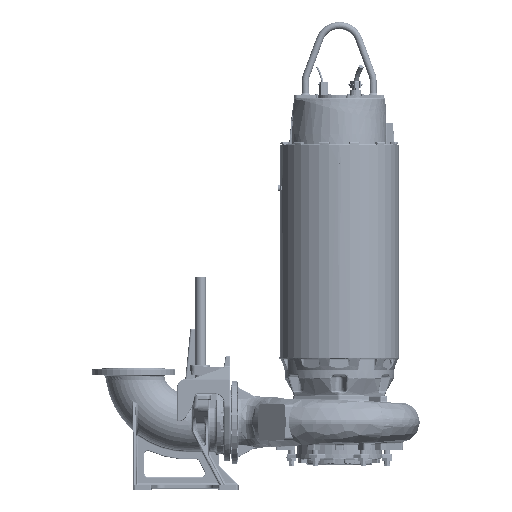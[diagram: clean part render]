
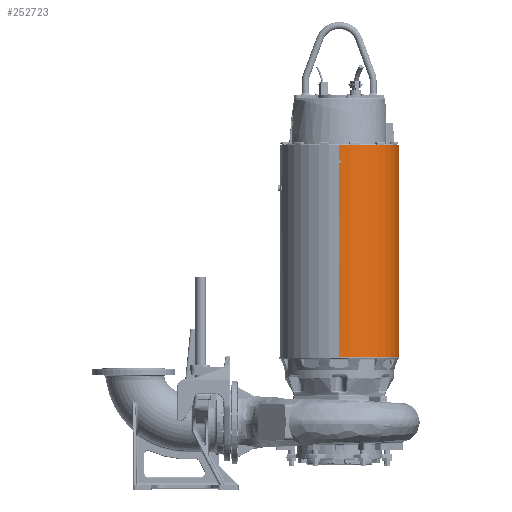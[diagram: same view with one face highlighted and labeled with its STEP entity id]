
A CAD part, top view. The second image highlights one B-rep face of the part: STEP entity #252723.
In plain terms, the highlighted cylindrical face has radius 344 mm (diameter 688 mm), a partial arc.
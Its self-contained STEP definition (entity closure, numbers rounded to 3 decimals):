
#5250 = CARTESIAN_POINT ( 'NONE',  ( 9.5, 1099.515, -343.869 ) ) ;
#8881 = CARTESIAN_POINT ( 'NONE',  ( 3.167, 1095.859, -344. ) ) ;
#22676 = CARTESIAN_POINT ( 'NONE',  ( 0., 1115.97, 344. ) ) ;
#25418 = EDGE_CURVE ( 'NONE', #211000, #96099, #162593, .T. ) ;
#27529 = EDGE_CURVE ( 'NONE', #104306, #339169, #310150, .T. ) ;
#30696 = LINE ( 'NONE', #313912, #316475 ) ;
#39542 = CARTESIAN_POINT ( 'NONE',  ( 9.5, 1110.485, -343.869 ) ) ;
#42169 = VERTEX_POINT ( 'NONE', #262280 ) ;
#46428 =( BOUNDED_CURVE ( )  B_SPLINE_CURVE ( 3, ( #362350, #249840, #278646, #107712 ),
 .UNSPECIFIED., .F., .F. ) 
 B_SPLINE_CURVE_WITH_KNOTS ( ( 4, 4 ),
 ( 1.543, 1.571 ),
 .UNSPECIFIED. ) 
 CURVE ( )  GEOMETRIC_REPRESENTATION_ITEM ( )  RATIONAL_B_SPLINE_CURVE ( ( 1., 1., 1., 1. ) ) 
 REPRESENTATION_ITEM ( '' )  );
#49949 = CARTESIAN_POINT ( 'NONE',  ( 9.5, 1110.485, 343.869 ) ) ;
#52790 = ORIENTED_EDGE ( 'NONE', *, *, #25418, .T. ) ;
#55227 = ORIENTED_EDGE ( 'NONE', *, *, #324623, .F. ) ;
#57528 = CARTESIAN_POINT ( 'NONE',  ( 0., -20., 344. ) ) ;
#57905 = ORIENTED_EDGE ( 'NONE', *, *, #284550, .T. ) ;
#61746 = DIRECTION ( 'NONE',  ( 0., -1., 0. ) ) ;
#62017 = CARTESIAN_POINT ( 'NONE',  ( 3.167, 1114.141, -344. ) ) ;
#62606 = ORIENTED_EDGE ( 'NONE', *, *, #178904, .F. ) ;
#71599 = DIRECTION ( 'NONE',  ( 0., -1., 0. ) ) ;
#77609 =( BOUNDED_CURVE ( )  B_SPLINE_CURVE ( 3, ( #316631, #62017, #90709, #290386 ),
 .UNSPECIFIED., .F., .F. ) 
 B_SPLINE_CURVE_WITH_KNOTS ( ( 4, 4 ),
 ( 1.571, 1.598 ),
 .UNSPECIFIED. ) 
 CURVE ( )  GEOMETRIC_REPRESENTATION_ITEM ( )  RATIONAL_B_SPLINE_CURVE ( ( 1., 1., 1., 1. ) ) 
 REPRESENTATION_ITEM ( '' )  );
#79678 = VERTEX_POINT ( 'NONE', #337999 ) ;
#79725 = CIRCLE ( 'NONE', #186034, 344. ) ;
#83793 = FACE_OUTER_BOUND ( 'NONE', #370579, .T. ) ;
#88654 =( BOUNDED_CURVE ( )  B_SPLINE_CURVE ( 3, ( #5250, #176445, #8881, #208733 ),
 .UNSPECIFIED., .F., .F. ) 
 B_SPLINE_CURVE_WITH_KNOTS ( ( 4, 4 ),
 ( 1.543, 1.571 ),
 .UNSPECIFIED. ) 
 CURVE ( )  GEOMETRIC_REPRESENTATION_ITEM ( )  RATIONAL_B_SPLINE_CURVE ( ( 1., 1., 1., 1. ) ) 
 REPRESENTATION_ITEM ( '' )  );
#89000 = DIRECTION ( 'NONE',  ( 0., -1., 0. ) ) ;
#90709 = CARTESIAN_POINT ( 'NONE',  ( 6.334, 1112.313, -343.956 ) ) ;
#94039 = LINE ( 'NONE', #127086, #245851 ) ;
#96099 = VERTEX_POINT ( 'NONE', #115337 ) ;
#104306 = VERTEX_POINT ( 'NONE', #110365 ) ;
#107712 = CARTESIAN_POINT ( 'NONE',  ( 0., 1094.03, 344. ) ) ;
#108780 = AXIS2_PLACEMENT_3D ( 'NONE', #119104, #318755, #147762 ) ;
#110365 = CARTESIAN_POINT ( 'NONE',  ( 0., 1205., -344. ) ) ;
#111413 = ORIENTED_EDGE ( 'NONE', *, *, #346804, .F. ) ;
#112049 = VERTEX_POINT ( 'NONE', #159641 ) ;
#115337 = CARTESIAN_POINT ( 'NONE',  ( 9.5, 1110.485, 343.869 ) ) ;
#116224 = ORIENTED_EDGE ( 'NONE', *, *, #354787, .F. ) ;
#119104 = CARTESIAN_POINT ( 'NONE',  ( 0., -20., 0. ) ) ;
#123340 = CARTESIAN_POINT ( 'NONE',  ( 9.5, 1345.349, 343.869 ) ) ;
#127086 = CARTESIAN_POINT ( 'NONE',  ( 9.5, 1345.349, -343.869 ) ) ;
#128936 = CARTESIAN_POINT ( 'NONE',  ( 0., 1205., 344. ) ) ;
#134923 = CARTESIAN_POINT ( 'NONE',  ( 6.334, 1112.313, 343.956 ) ) ;
#142543 = ORIENTED_EDGE ( 'NONE', *, *, #340282, .T. ) ;
#143026 = DIRECTION ( 'NONE',  ( 0., -1., 0. ) ) ;
#144352 = VERTEX_POINT ( 'NONE', #145348 ) ;
#144970 = VERTEX_POINT ( 'NONE', #360602 ) ;
#145348 = CARTESIAN_POINT ( 'NONE',  ( 0., 1094.03, 344. ) ) ;
#146675 = VECTOR ( 'NONE', #210634, 1000. ) ;
#147762 = DIRECTION ( 'NONE',  ( 1., 0., 0. ) ) ;
#148342 = VERTEX_POINT ( 'NONE', #57528 ) ;
#155618 = LINE ( 'NONE', #123340, #146675 ) ;
#156634 = DIRECTION ( 'NONE',  ( 0., -1., 0. ) ) ;
#158944 = CARTESIAN_POINT ( 'NONE',  ( 0., 0., -344. ) ) ;
#159641 = CARTESIAN_POINT ( 'NONE',  ( 9.5, 1099.515, 343.869 ) ) ;
#162593 =( BOUNDED_CURVE ( )  B_SPLINE_CURVE ( 3, ( #220926, #163586, #134923, #49949 ),
 .UNSPECIFIED., .F., .F. ) 
 B_SPLINE_CURVE_WITH_KNOTS ( ( 4, 4 ),
 ( 1.571, 1.598 ),
 .UNSPECIFIED. ) 
 CURVE ( )  GEOMETRIC_REPRESENTATION_ITEM ( )  RATIONAL_B_SPLINE_CURVE ( ( 1., 1., 1., 1. ) ) 
 REPRESENTATION_ITEM ( '' )  );
#163586 = CARTESIAN_POINT ( 'NONE',  ( 3.167, 1114.141, 344. ) ) ;
#173062 = EDGE_CURVE ( 'NONE', #112049, #144352, #46428, .T. ) ;
#174178 = LINE ( 'NONE', #321334, #183178 ) ;
#176445 = CARTESIAN_POINT ( 'NONE',  ( 6.334, 1097.687, -343.956 ) ) ;
#177112 = LINE ( 'NONE', #215161, #328920 ) ;
#178904 = EDGE_CURVE ( 'NONE', #144970, #79678, #174178, .T. ) ;
#180155 = CARTESIAN_POINT ( 'NONE',  ( 0., 1115.97, -344. ) ) ;
#183178 = VECTOR ( 'NONE', #61746, 1000. ) ;
#186034 = AXIS2_PLACEMENT_3D ( 'NONE', #327645, #156634, #356401 ) ;
#194051 = EDGE_CURVE ( 'NONE', #42169, #144970, #88654, .T. ) ;
#196837 = ORIENTED_EDGE ( 'NONE', *, *, #212356, .T. ) ;
#199920 = CYLINDRICAL_SURFACE ( 'NONE', #249588, 344. ) ;
#208733 = CARTESIAN_POINT ( 'NONE',  ( 0., 1094.03, -344. ) ) ;
#210300 = ORIENTED_EDGE ( 'NONE', *, *, #27529, .F. ) ;
#210634 = DIRECTION ( 'NONE',  ( 0., -1., 0. ) ) ;
#211000 = VERTEX_POINT ( 'NONE', #22676 ) ;
#212356 = EDGE_CURVE ( 'NONE', #215029, #211000, #30696, .T. ) ;
#215029 = VERTEX_POINT ( 'NONE', #128936 ) ;
#215161 = CARTESIAN_POINT ( 'NONE',  ( 0., 0., 344. ) ) ;
#220926 = CARTESIAN_POINT ( 'NONE',  ( 0., 1115.97, 344. ) ) ;
#226165 = VERTEX_POINT ( 'NONE', #39542 ) ;
#234194 = VECTOR ( 'NONE', #244973, 1000. ) ;
#244973 = DIRECTION ( 'NONE',  ( 0., -1., 0. ) ) ;
#245758 = ORIENTED_EDGE ( 'NONE', *, *, #302528, .T. ) ;
#245851 = VECTOR ( 'NONE', #326697, 1000. ) ;
#249588 = AXIS2_PLACEMENT_3D ( 'NONE', #317406, #89000, #289929 ) ;
#249840 = CARTESIAN_POINT ( 'NONE',  ( 6.334, 1097.687, 343.956 ) ) ;
#252723 = ADVANCED_FACE ( 'NONE', ( #83793 ), #199920, .T. ) ;
#262280 = CARTESIAN_POINT ( 'NONE',  ( 9.5, 1099.515, -343.869 ) ) ;
#271048 = ORIENTED_EDGE ( 'NONE', *, *, #173062, .T. ) ;
#278646 = CARTESIAN_POINT ( 'NONE',  ( 3.167, 1095.859, 344. ) ) ;
#284550 = EDGE_CURVE ( 'NONE', #104306, #215029, #79725, .T. ) ;
#289929 = DIRECTION ( 'NONE',  ( 0., 0., -1. ) ) ;
#290386 = CARTESIAN_POINT ( 'NONE',  ( 9.5, 1110.485, -343.869 ) ) ;
#302528 = EDGE_CURVE ( 'NONE', #96099, #112049, #155618, .T. ) ;
#308829 = CIRCLE ( 'NONE', #108780, 344. ) ;
#310150 = LINE ( 'NONE', #158944, #234194 ) ;
#313912 = CARTESIAN_POINT ( 'NONE',  ( 0., 0., 344. ) ) ;
#316475 = VECTOR ( 'NONE', #143026, 1000. ) ;
#316631 = CARTESIAN_POINT ( 'NONE',  ( 0., 1115.97, -344. ) ) ;
#317406 = CARTESIAN_POINT ( 'NONE',  ( 0., 0., 0. ) ) ;
#318755 = DIRECTION ( 'NONE',  ( 0., -1., 0. ) ) ;
#321334 = CARTESIAN_POINT ( 'NONE',  ( 0., 0., -344. ) ) ;
#324623 = EDGE_CURVE ( 'NONE', #226165, #42169, #94039, .T. ) ;
#326697 = DIRECTION ( 'NONE',  ( 0., -1., 0. ) ) ;
#327645 = CARTESIAN_POINT ( 'NONE',  ( 0., 1205., 0. ) ) ;
#328920 = VECTOR ( 'NONE', #71599, 1000. ) ;
#334389 = ORIENTED_EDGE ( 'NONE', *, *, #194051, .F. ) ;
#337999 = CARTESIAN_POINT ( 'NONE',  ( 0., -20., -344. ) ) ;
#339169 = VERTEX_POINT ( 'NONE', #180155 ) ;
#340282 = EDGE_CURVE ( 'NONE', #144352, #148342, #177112, .T. ) ;
#346804 = EDGE_CURVE ( 'NONE', #79678, #148342, #308829, .T. ) ;
#354787 = EDGE_CURVE ( 'NONE', #339169, #226165, #77609, .T. ) ;
#356401 = DIRECTION ( 'NONE',  ( 0., 0., -1. ) ) ;
#360602 = CARTESIAN_POINT ( 'NONE',  ( 0., 1094.03, -344. ) ) ;
#362350 = CARTESIAN_POINT ( 'NONE',  ( 9.5, 1099.515, 343.869 ) ) ;
#370579 = EDGE_LOOP ( 'NONE', ( #57905, #196837, #52790, #245758, #271048, #142543, #111413, #62606, #334389, #55227, #116224, #210300 ) ) ;
